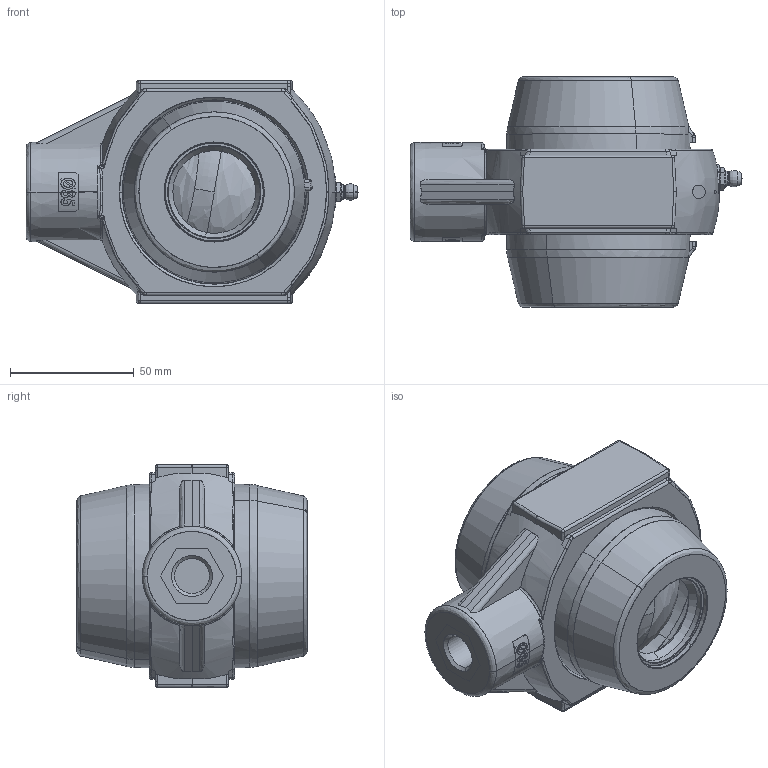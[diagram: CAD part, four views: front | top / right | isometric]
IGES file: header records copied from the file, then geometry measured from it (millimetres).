
Start section: SolidWorks IGES file using analytic representation for surfaces
Global section: file name: P:\DANIEL DISEÑO\INTERCAMBIO ARCHIVOS\3621DC35.IGS; native system: SolidWorks 2022; preprocessor: SolidWorks 2022; author: daniel.portillo; date: 240125.155655; units: millimetre
Bounding box: 134.05 x 92.9 x 90 mm (x, y, z)
Surface area: 122916.7 mm2 (no closed solid volume)
Topology: 0 solids, 0 shells, 1187 faces, 14762 edges, 14748 vertices
Faces by surface type: bspline 818, revolution 369
